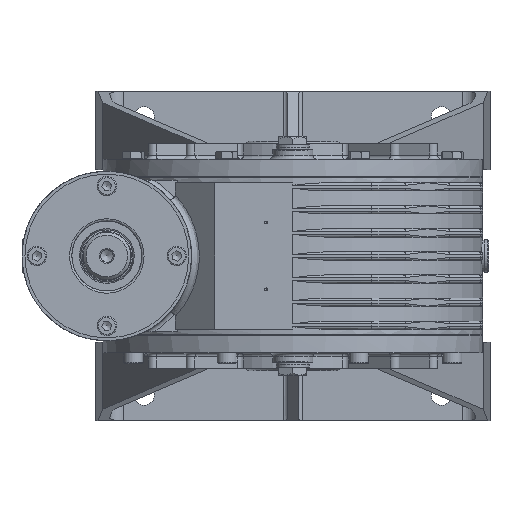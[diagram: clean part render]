
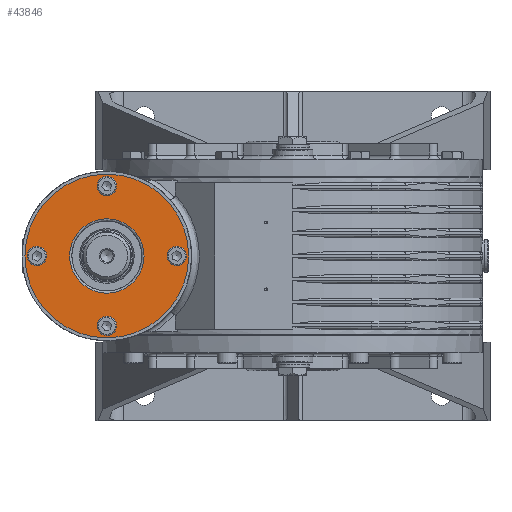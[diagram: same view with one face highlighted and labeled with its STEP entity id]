
A CAD part, left-side view. The second image highlights one B-rep face of the part: STEP entity #43846.
In plain terms, the highlighted planar face has unit normal (-1, 0, 0).
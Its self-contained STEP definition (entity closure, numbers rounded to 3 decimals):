
#43751=CARTESIAN_POINT('',(0.0,25.,0.));
#43752=VERTEX_POINT('',#43751);
#43753=CARTESIAN_POINT('',(0.0,0.0,0.0));
#43754=DIRECTION('',(-1.0,0.0,0.0));
#43755=DIRECTION('',(0.0,-1.0,0.0));
#43756=AXIS2_PLACEMENT_3D('',#43753,#43754,#43755);
#43757=CIRCLE('',#43756,25.);
#43758=EDGE_CURVE('',#43752,#43752,#43757,.T.);
#43783=CARTESIAN_POINT('',(0.0,39.25,0.0));
#43784=DIRECTION('',(-1.0,0.0,0.0));
#43785=DIRECTION('',(0.0,0.0,1.0));
#43786=AXIS2_PLACEMENT_3D('',#43783,#43784,#43785);
#43787=PLANE('',#43786);
#43788=CARTESIAN_POINT('',(0.0,55.0,0.0));
#43789=VERTEX_POINT('',#43788);
#43790=CARTESIAN_POINT('',(0.0,0.0,0.0));
#43791=DIRECTION('',(1.0,0.0,0.0));
#43792=DIRECTION('',(0.0,1.0,0.0));
#43793=AXIS2_PLACEMENT_3D('',#43790,#43791,#43792);
#43794=CIRCLE('',#43793,55.0);
#43795=EDGE_CURVE('',#43789,#43789,#43794,.T.);
#43796=ORIENTED_EDGE('',*,*,#43795,.F.);
#43797=EDGE_LOOP('',(#43796));
#43798=FACE_OUTER_BOUND('',#43797,.T.);
#43799=CARTESIAN_POINT('',(0.0,47.0,-4.375));
#43800=VERTEX_POINT('',#43799);
#43801=CARTESIAN_POINT('',(0.0,47.0,0.0));
#43802=DIRECTION('',(1.0,0.0,0.0));
#43803=DIRECTION('',(0.0,0.0,1.0));
#43804=AXIS2_PLACEMENT_3D('',#43801,#43802,#43803);
#43805=CIRCLE('',#43804,4.375);
#43806=EDGE_CURVE('',#43800,#43800,#43805,.T.);
#43807=ORIENTED_EDGE('',*,*,#43806,.T.);
#43808=EDGE_LOOP('',(#43807));
#43809=FACE_BOUND('',#43808,.T.);
#43810=CARTESIAN_POINT('',(0.0,4.375,47.0));
#43811=VERTEX_POINT('',#43810);
#43812=CARTESIAN_POINT('',(0.0,0.,47.0));
#43813=DIRECTION('',(1.0,0.0,0.0));
#43814=DIRECTION('',(0.0,-1.0,0.0));
#43815=AXIS2_PLACEMENT_3D('',#43812,#43813,#43814);
#43816=CIRCLE('',#43815,4.375);
#43817=EDGE_CURVE('',#43811,#43811,#43816,.T.);
#43818=ORIENTED_EDGE('',*,*,#43817,.T.);
#43819=EDGE_LOOP('',(#43818));
#43820=FACE_BOUND('',#43819,.T.);
#43821=CARTESIAN_POINT('',(0.0,-47.0,4.375));
#43822=VERTEX_POINT('',#43821);
#43823=CARTESIAN_POINT('',(0.0,-47.0,0.));
#43824=DIRECTION('',(1.0,0.0,0.0));
#43825=DIRECTION('',(0.0,0.0,-1.0));
#43826=AXIS2_PLACEMENT_3D('',#43823,#43824,#43825);
#43827=CIRCLE('',#43826,4.375);
#43828=EDGE_CURVE('',#43822,#43822,#43827,.T.);
#43829=ORIENTED_EDGE('',*,*,#43828,.T.);
#43830=EDGE_LOOP('',(#43829));
#43831=FACE_BOUND('',#43830,.T.);
#43832=CARTESIAN_POINT('',(0.0,-4.375,-47.0));
#43833=VERTEX_POINT('',#43832);
#43834=CARTESIAN_POINT('',(0.0,0.,-47.0));
#43835=DIRECTION('',(1.0,0.0,0.0));
#43836=DIRECTION('',(0.0,1.0,0.0));
#43837=AXIS2_PLACEMENT_3D('',#43834,#43835,#43836);
#43838=CIRCLE('',#43837,4.375);
#43839=EDGE_CURVE('',#43833,#43833,#43838,.T.);
#43840=ORIENTED_EDGE('',*,*,#43839,.T.);
#43841=EDGE_LOOP('',(#43840));
#43842=FACE_BOUND('',#43841,.T.);
#43843=ORIENTED_EDGE('',*,*,#43758,.F.);
#43844=EDGE_LOOP('',(#43843));
#43845=FACE_BOUND('',#43844,.T.);
#43846=ADVANCED_FACE('',(#43798,#43809,#43820,#43831,#43842,#43845),#43787,.T.);
